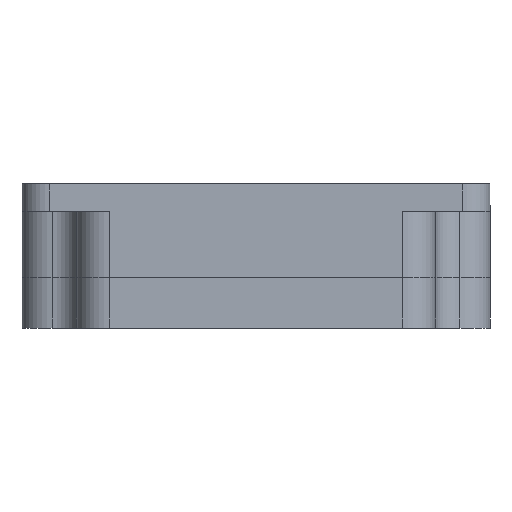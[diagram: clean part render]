
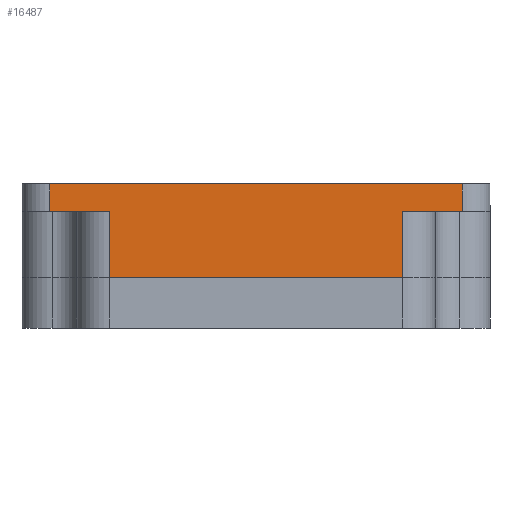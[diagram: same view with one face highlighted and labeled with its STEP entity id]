
A CAD part, front view. The second image highlights one B-rep face of the part: STEP entity #16487.
In plain terms, the highlighted planar face has unit normal (0, -1, 0).
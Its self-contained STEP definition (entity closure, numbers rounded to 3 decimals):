
#12 = DIRECTION ( 'NONE',  ( 0., 0., -1. ) ) ;
#52 = CARTESIAN_POINT ( 'NONE',  ( 30.913, -34.447, 88.75 ) ) ;
#406 = VERTEX_POINT ( 'NONE', #14838 ) ;
#603 = DIRECTION ( 'NONE',  ( 1., 0., 0. ) ) ;
#1057 = LINE ( 'NONE', #26269, #2763 ) ;
#1328 = DIRECTION ( 'NONE',  ( -1., 0., 0. ) ) ;
#1816 = EDGE_CURVE ( 'NONE', #15493, #26294, #20076, .T. ) ;
#1897 = CARTESIAN_POINT ( 'NONE',  ( -4.087, -34.447, 88.75 ) ) ;
#2763 = VECTOR ( 'NONE', #603, 1000. ) ;
#3130 = DIRECTION ( 'NONE',  ( 0., 0., -1. ) ) ;
#3291 = VERTEX_POINT ( 'NONE', #18892 ) ;
#3934 = VECTOR ( 'NONE', #27257, 1000. ) ;
#4141 = EDGE_CURVE ( 'NONE', #18801, #26294, #1057, .T. ) ;
#4604 = PLANE ( 'NONE',  #24015 ) ;
#5478 = LINE ( 'NONE', #27763, #21681 ) ;
#5651 = VERTEX_POINT ( 'NONE', #26936 ) ;
#5948 = EDGE_CURVE ( 'NONE', #3291, #18801, #5478, .T. ) ;
#6077 = VECTOR ( 'NONE', #12, 1000. ) ;
#6235 = DIRECTION ( 'NONE',  ( 0., 0., 1. ) ) ;
#6645 = DIRECTION ( 'NONE',  ( 1., 0., 0. ) ) ;
#6897 = EDGE_LOOP ( 'NONE', ( #14168, #20822, #12435, #14596, #27010, #7866, #10027, #19606 ) ) ;
#7014 = CARTESIAN_POINT ( 'NONE',  ( -28.133, -34.447, 76.75 ) ) ;
#7866 = ORIENTED_EDGE ( 'NONE', *, *, #21267, .F. ) ;
#8261 = VECTOR ( 'NONE', #3130, 1000. ) ;
#9559 = CARTESIAN_POINT ( 'NONE',  ( -28.133, -34.447, 91.75 ) ) ;
#9778 = CARTESIAN_POINT ( 'NONE',  ( -33.133, -34.447, 88.75 ) ) ;
#10027 = ORIENTED_EDGE ( 'NONE', *, *, #17909, .T. ) ;
#12435 = ORIENTED_EDGE ( 'NONE', *, *, #14713, .F. ) ;
#12950 = LINE ( 'NONE', #22616, #8261 ) ;
#13577 = VERTEX_POINT ( 'NONE', #22315 ) ;
#14168 = ORIENTED_EDGE ( 'NONE', *, *, #4141, .F. ) ;
#14202 = LINE ( 'NONE', #1897, #17599 ) ;
#14596 = ORIENTED_EDGE ( 'NONE', *, *, #24652, .T. ) ;
#14640 = VERTEX_POINT ( 'NONE', #9778 ) ;
#14713 = EDGE_CURVE ( 'NONE', #14640, #3291, #26166, .T. ) ;
#14838 = CARTESIAN_POINT ( 'NONE',  ( 19.959, -34.447, 88.75 ) ) ;
#15300 = VECTOR ( 'NONE', #6645, 1000. ) ;
#15493 = VERTEX_POINT ( 'NONE', #52 ) ;
#16487 = ADVANCED_FACE ( 'NONE', ( #26627 ), #4604, .F. ) ;
#17599 = VECTOR ( 'NONE', #19210, 1000. ) ;
#17909 = EDGE_CURVE ( 'NONE', #406, #15493, #14202, .T. ) ;
#18221 = LINE ( 'NONE', #18583, #6077 ) ;
#18583 = CARTESIAN_POINT ( 'NONE',  ( -33.133, -34.447, 91.75 ) ) ;
#18801 = VERTEX_POINT ( 'NONE', #20965 ) ;
#18892 = CARTESIAN_POINT ( 'NONE',  ( -44.087, -34.447, 88.75 ) ) ;
#18964 = CARTESIAN_POINT ( 'NONE',  ( 30.913, -34.447, 93.75 ) ) ;
#19210 = DIRECTION ( 'NONE',  ( 1., 0., 0. ) ) ;
#19366 = VECTOR ( 'NONE', #1328, 1000. ) ;
#19606 = ORIENTED_EDGE ( 'NONE', *, *, #1816, .T. ) ;
#20076 = LINE ( 'NONE', #25002, #3934 ) ;
#20822 = ORIENTED_EDGE ( 'NONE', *, *, #5948, .F. ) ;
#20965 = CARTESIAN_POINT ( 'NONE',  ( -44.087, -34.447, 93.75 ) ) ;
#21042 = LINE ( 'NONE', #7014, #15300 ) ;
#21267 = EDGE_CURVE ( 'NONE', #406, #5651, #12950, .T. ) ;
#21660 = EDGE_CURVE ( 'NONE', #13577, #5651, #21042, .T. ) ;
#21681 = VECTOR ( 'NONE', #6235, 1000. ) ;
#22315 = CARTESIAN_POINT ( 'NONE',  ( -33.133, -34.447, 76.75 ) ) ;
#22580 = DIRECTION ( 'NONE',  ( 0., 1., 0. ) ) ;
#22616 = CARTESIAN_POINT ( 'NONE',  ( 19.959, -34.447, 91.75 ) ) ;
#24015 = AXIS2_PLACEMENT_3D ( 'NONE', #9559, #22580, #24574 ) ;
#24574 = DIRECTION ( 'NONE',  ( -1., 0., 0. ) ) ;
#24652 = EDGE_CURVE ( 'NONE', #14640, #13577, #18221, .T. ) ;
#25001 = CARTESIAN_POINT ( 'NONE',  ( -9.087, -34.447, 88.75 ) ) ;
#25002 = CARTESIAN_POINT ( 'NONE',  ( 30.913, -34.447, 88.75 ) ) ;
#26166 = LINE ( 'NONE', #25001, #19366 ) ;
#26269 = CARTESIAN_POINT ( 'NONE',  ( -28.133, -34.447, 93.75 ) ) ;
#26294 = VERTEX_POINT ( 'NONE', #18964 ) ;
#26627 = FACE_OUTER_BOUND ( 'NONE', #6897, .T. ) ;
#26936 = CARTESIAN_POINT ( 'NONE',  ( 19.959, -34.447, 76.75 ) ) ;
#27010 = ORIENTED_EDGE ( 'NONE', *, *, #21660, .T. ) ;
#27257 = DIRECTION ( 'NONE',  ( 0., 0., 1. ) ) ;
#27763 = CARTESIAN_POINT ( 'NONE',  ( -44.087, -34.447, 88.75 ) ) ;
